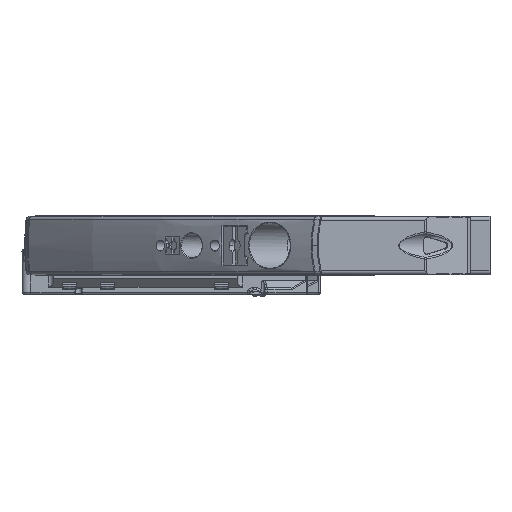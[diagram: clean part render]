
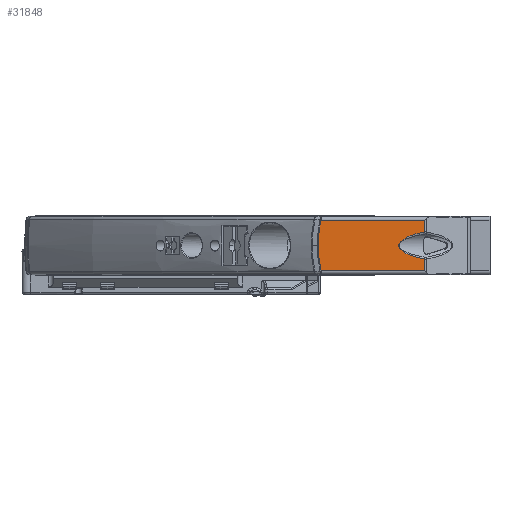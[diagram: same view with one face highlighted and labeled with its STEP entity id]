
A CAD part, left-side view. The second image highlights one B-rep face of the part: STEP entity #31848.
In plain terms, the highlighted planar face has unit normal (-1, 0, 0).
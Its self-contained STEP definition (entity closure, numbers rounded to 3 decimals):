
#8786=CARTESIAN_POINT('',(-40.,7.214,-2.88));
#8787=CARTESIAN_POINT('',(-40.,7.512,
-2.824));
#8788=CARTESIAN_POINT('',(-40.,8.072,
-2.707));
#8789=CARTESIAN_POINT('',(-40.,8.801,
-2.527));
#8790=CARTESIAN_POINT('',(-40.,9.438,
-2.346));
#8791=CARTESIAN_POINT('',(-40.,9.991,
-2.164));
#8792=CARTESIAN_POINT('',(-40.,10.469,
-1.984));
#8793=CARTESIAN_POINT('',(-40.,10.881,
-1.808));
#8794=CARTESIAN_POINT('',(-40.,11.234,-1.635));
#8795=CARTESIAN_POINT('',(-40.,11.533,-1.468));
#8796=CARTESIAN_POINT('',(-40.,11.784,-1.307));
#8797=CARTESIAN_POINT('',(-40.,11.994,-1.153));
#8798=CARTESIAN_POINT('',(-40.,12.165,-1.007));
#8799=CARTESIAN_POINT('',(-40.,12.304,-0.869));
#8800=CARTESIAN_POINT('',(-40.,12.413,-0.741));
#8801=CARTESIAN_POINT('',(-40.,12.499,-0.62));
#8802=CARTESIAN_POINT('',(-40.,12.566,-0.507));
#8803=CARTESIAN_POINT('',(-40.,12.617,-0.399));
#8804=CARTESIAN_POINT('',(-40.,12.654,-0.296));
#8805=CARTESIAN_POINT('',(-40.,12.68,-0.195));
#8806=CARTESIAN_POINT('',(-40.,12.695,-0.097));
#8807=CARTESIAN_POINT('',(-40.,12.699,0.));
#8808=CARTESIAN_POINT('',(-40.,12.695,0.097));
#8809=CARTESIAN_POINT('',(-40.,12.68,0.195));
#8810=CARTESIAN_POINT('',(-40.,12.655,0.295));
#8811=CARTESIAN_POINT('',(-40.,12.617,0.398));
#8812=CARTESIAN_POINT('',(-40.,12.567,0.506));
#8813=CARTESIAN_POINT('',(-40.,12.5,0.619));
#8814=CARTESIAN_POINT('',(-40.,12.414,0.74));
#8815=CARTESIAN_POINT('',(-40.,12.304,0.868));
#8816=CARTESIAN_POINT('',(-40.,12.166,1.006));
#8817=CARTESIAN_POINT('',(-40.,11.995,1.152));
#8818=CARTESIAN_POINT('',(-40.,11.786,1.306));
#8819=CARTESIAN_POINT('',(-40.,11.534,1.467));
#8820=CARTESIAN_POINT('',(-40.,11.235,1.635));
#8821=CARTESIAN_POINT('',(-40.,10.883,1.807));
#8822=CARTESIAN_POINT('',(-40.,10.471,1.984));
#8823=CARTESIAN_POINT('',(-40.,9.992,2.164));
#8824=CARTESIAN_POINT('',(-40.,9.439,2.345));
#8825=CARTESIAN_POINT('',(-40.,8.802,2.527));
#8826=CARTESIAN_POINT('',(-40.,8.072,2.707));
#8827=CARTESIAN_POINT('',(-40.,7.512,2.824));
#8828=CARTESIAN_POINT('',(-40.,7.214,2.88));
#8830=CARTESIAN_POINT('',(-40.,7.214,2.88));
#8848=CARTESIAN_POINT('',(-40.,7.214,-2.88));
#8860=DIRECTION('',(0.,0.,1.));
#8861=VECTOR('',#8860,2.47);
#8862=CARTESIAN_POINT('',(-40.,7.214,-5.35));
#8863=LINE('',#8862,#8861);
#8864=DIRECTION('',(0.,-1.,0.));
#8865=VECTOR('',#8864,21.831);
#8866=CARTESIAN_POINT('',(-40.,29.046,
-5.35));
#8867=LINE('',#8866,#8865);
#8894=CARTESIAN_POINT('',(-40.,29.046,
-5.35));
#8895=CARTESIAN_POINT('',(-40.,29.125,
-4.998));
#8896=CARTESIAN_POINT('',(-40.,29.268,
-4.29));
#8897=CARTESIAN_POINT('',(-40.,29.435,
-3.219));
#8898=CARTESIAN_POINT('',(-40.,29.554,
-2.145));
#8899=CARTESIAN_POINT('',(-40.,29.626,
-1.072));
#8900=CARTESIAN_POINT('',(-40.,29.642,
-0.357));
#8901=CARTESIAN_POINT('',(-40.,29.642,
0.));
#8903=CARTESIAN_POINT('',(-40.,29.642,
0.));
#8904=CARTESIAN_POINT('',(-40.,29.642,
0.36));
#8905=CARTESIAN_POINT('',(-40.,29.626,1.079));
#8906=CARTESIAN_POINT('',(-40.,29.553,2.156));
#8907=CARTESIAN_POINT('',(-40.,29.434,3.228));
#8908=CARTESIAN_POINT('',(-40.,29.267,4.294));
#8909=CARTESIAN_POINT('',(-40.,29.125,4.999));
#8910=CARTESIAN_POINT('',(-40.,29.046,5.35));
#8933=DIRECTION('',(0.,1.,0.));
#8934=VECTOR('',#8933,21.831);
#8935=CARTESIAN_POINT('',(-40.,7.214,5.35));
#8936=LINE('',#8935,#8934);
#8937=DIRECTION('',(0.,0.,1.));
#8938=VECTOR('',#8937,2.47);
#8939=CARTESIAN_POINT('',(-40.,7.214,2.88));
#8940=LINE('',#8939,#8938);
#18372=VERTEX_POINT('',#8830);
#18374=VERTEX_POINT('',#8848);
#18412=CARTESIAN_POINT('',(-40.,7.214,5.35));
#18413=VERTEX_POINT('',#18412);
#18414=CARTESIAN_POINT('',(-40.,29.046,
5.35));
#18415=VERTEX_POINT('',#18414);
#18416=CARTESIAN_POINT('',(-40.,7.214,-5.35));
#18417=VERTEX_POINT('',#18416);
#18418=CARTESIAN_POINT('',(-40.,29.046,
-5.35));
#18419=VERTEX_POINT('',#18418);
#18420=VERTEX_POINT('',#8901);
#31830=CARTESIAN_POINT('',(-40.,91.5,-6.15));
#31831=DIRECTION('',(-1.,0.,0.));
#31832=DIRECTION('',(0.,-1.,0.));
#31833=AXIS2_PLACEMENT_3D('',#31830,#31831,#31832);
#31834=PLANE('',#31833);
#31836=ORIENTED_EDGE('',*,*,#31835,.F.);
#31838=ORIENTED_EDGE('',*,*,#31837,.F.);
#31839=ORIENTED_EDGE('',*,*,#31742,.F.);
#31840=ORIENTED_EDGE('',*,*,#31810,.F.);
#31841=ORIENTED_EDGE('',*,*,#31820,.F.);
#31843=ORIENTED_EDGE('',*,*,#31842,.T.);
#31845=ORIENTED_EDGE('',*,*,#31844,.T.);
#31846=EDGE_LOOP('',(#31836,#31838,#31839,#31840,#31841,#31843,#31845));
#31847=FACE_OUTER_BOUND('',#31846,.F.);
#8829=B_SPLINE_CURVE_WITH_KNOTS('',3,(#8786,#8787,#8788,#8789,#8790,#8791,#8792,
#8793,#8794,#8795,#8796,#8797,#8798,#8799,#8800,#8801,#8802,#8803,#8804,#8805,
#8806,#8807,#8808,#8809,#8810,#8811,#8812,#8813,#8814,#8815,#8816,#8817,#8818,
#8819,#8820,#8821,#8822,#8823,#8824,#8825,#8826,#8827,#8828),.UNSPECIFIED.,.F.,
.F.,(4,1,1,1,1,1,1,1,1,1,1,1,1,1,1,1,1,1,1,1,1,1,1,1,1,1,1,1,1,1,1,1,1,1,1,1,1,
1,1,1,4),(0.,0.025,0.05,0.075,0.1,0.125,0.15,0.175,0.2,0.225,
0.25,0.275,0.3,0.325,0.35,0.375,0.4,0.425,0.45,0.475,0.5,
0.525,0.55,0.575,0.6,0.625,0.65,0.675,0.7,0.725,0.75,
0.775,0.8,0.825,0.85,0.875,0.9,0.925,0.95,0.975,1.),
.UNSPECIFIED.);
#8902=B_SPLINE_CURVE_WITH_KNOTS('',3,(#8894,#8895,#8896,#8897,#8898,#8899,#8900,
#8901),.UNSPECIFIED.,.F.,.F.,(4,1,1,1,1,4),(0.,0.2,0.4,0.6,0.8,1.),
.UNSPECIFIED.);
#8911=B_SPLINE_CURVE_WITH_KNOTS('',3,(#8903,#8904,#8905,#8906,#8907,#8908,#8909,
#8910),.UNSPECIFIED.,.F.,.F.,(4,1,1,1,1,4),(0.,0.2,0.4,0.6,0.8,1.),
.UNSPECIFIED.);
#31742=EDGE_CURVE('',#18374,#18372,#8829,.T.);
#31810=EDGE_CURVE('',#18417,#18374,#8863,.T.);
#31820=EDGE_CURVE('',#18419,#18417,#8867,.T.);
#31835=EDGE_CURVE('',#18413,#18415,#8936,.T.);
#31837=EDGE_CURVE('',#18372,#18413,#8940,.T.);
#31842=EDGE_CURVE('',#18419,#18420,#8902,.T.);
#31844=EDGE_CURVE('',#18420,#18415,#8911,.T.);
#31848=ADVANCED_FACE('',(#31847),#31834,.T.);
